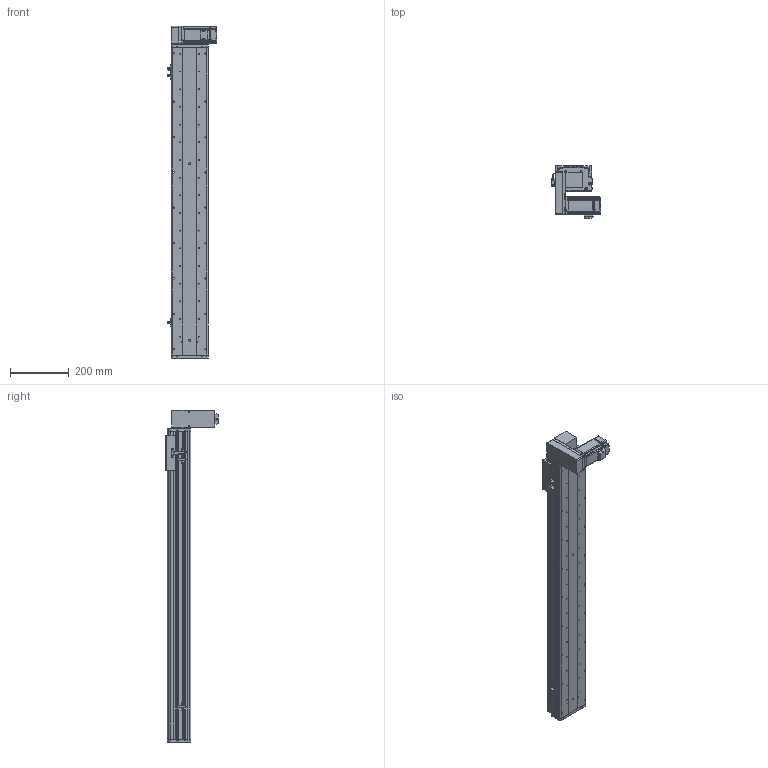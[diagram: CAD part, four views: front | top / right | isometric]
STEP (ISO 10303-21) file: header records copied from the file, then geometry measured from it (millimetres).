
FILE_DESCRIPTION (( 'STEP AP214' ), '1' );
FILE_NAME ('KSD125B-S850-MRD-CM.STEP', '2017-10-21T06:13:54', ( '微软用户' ), ( '微软中国' ), 'SwSTEP 2.0', 'SolidWorks 2014', '' );
FILE_SCHEMA (( 'AUTOMOTIVE_DESIGN' ));
Length unit declared in the file: millimetre
Products named in the file (17): KSD125B-S850-MRD-CM; 悵誘欶奻狟殏; HTPA30S3M150_A_H6_a佪裝蚚; HTPA30S3M150_A_H6_a萇儂蚚; 100宽马达安装板连板上下折丝杆同步带; KSD125模组850行程同步带-防尘盖; 125模组850行程同步带-底板; MHMD042G1CA_2_03; KSD125模组同步带-防撞垫2; 覜茼え68遵圉猾敕; U倰嫖萇假蚾璃; U倰嫖萇EEㄜSX672; KSD125模组同步带-防撞垫1; 100宽马达安装板同步带右; 前端板-125宽模组同步带; 125模组同步带-尾端板1; KSD125模组同步带-滑动座1
Assembly tree (20 placements, depth 2):
  KSD125B-S850-MRD-CM
    KSD125模组同步带-滑动座1
    125模组同步带-尾端板1
    前端板-125宽模组同步带
    100宽马达安装板同步带右
    KSD125模组同步带-防撞垫1
    U倰嫖萇EEㄜSX672  x3
    U倰嫖萇假蚾璃  x3
    覜茼え68遵圉猾敕
    KSD125模组同步带-防撞垫2
    MHMD042G1CA_2_03
    125模组850行程同步带-底板
    KSD125模组850行程同步带-防尘盖
    100宽马达安装板连板上下折丝杆同步带
    HTPA30S3M150_A_H6_a萇儂蚚
    HTPA30S3M150_A_H6_a佪裝蚚
    悵誘欶奻狟殏
Bounding box: 168.7 x 179.5 x 1127 mm (x, y, z)
Volume: 3525553.7 mm3; surface area: 1194377.6 mm2
Topology: 19 solids, 22 shells, 2293 faces, 6643 edges, 4390 vertices
Faces by surface type: cylinder 1440, plane 726, cone 105, bspline 22
Entity records: 81593 total; most frequent: CARTESIAN_POINT 16101, DIRECTION 12684, ORIENTED_EDGE 11806, EDGE_CURVE 5981, AXIS2_PLACEMENT_3D 4905, VERTEX_POINT 3982, VECTOR 2874, LINE 2874
